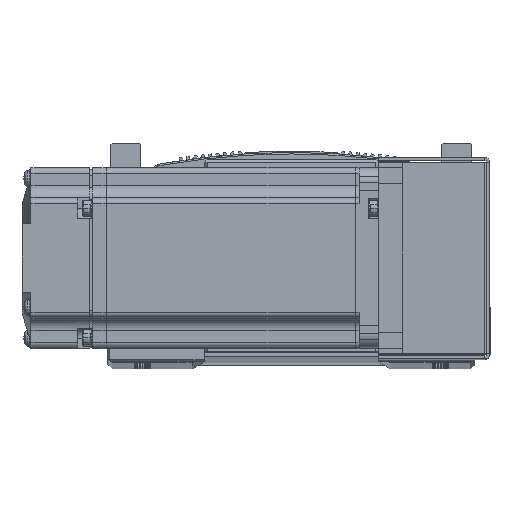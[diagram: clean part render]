
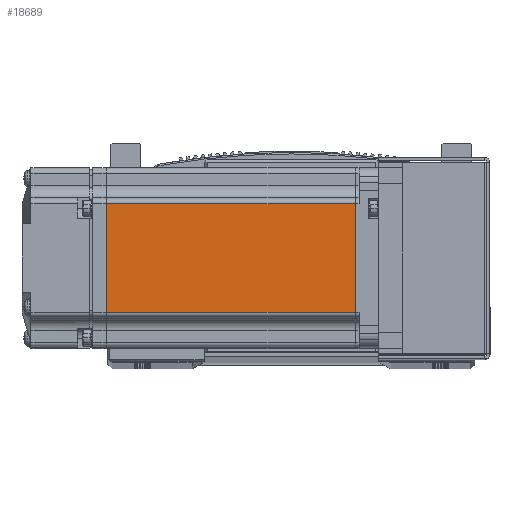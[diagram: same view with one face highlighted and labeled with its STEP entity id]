
A CAD part, top view. The second image highlights one B-rep face of the part: STEP entity #18689.
In plain terms, the highlighted planar face has unit normal (0, 0, 1) as drawn and (0, 1, 0) by its records, which use the part's own axes.
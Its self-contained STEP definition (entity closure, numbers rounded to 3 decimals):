
#3434 = VERTEX_POINT ( 'NONE', #96919 ) ;
#3459 = VERTEX_POINT ( 'NONE', #96931 ) ;
#3478 = VERTEX_POINT ( 'NONE', #96950 ) ;
#5338 = AXIS2_PLACEMENT_3D ( 'NONE', #7782, #7990, #8073 ) ;
#7782 = CARTESIAN_POINT ( 'NONE',  ( -6.5, 30., 25. ) ) ;
#7938 = PLANE ( 'NONE',  #5338 ) ;
#7990 = DIRECTION ( 'NONE',  ( 0., 1., 0. ) ) ;
#8073 = DIRECTION ( 'NONE',  ( 0., 0., 1. ) ) ;
#17486 = FACE_OUTER_BOUND ( 'NONE', #50360, .T. ) ;
#18689 = ADVANCED_FACE ( 'NONE', ( #17486 ), #7938, .T. ) ;
#23706 = CARTESIAN_POINT ( 'NONE',  ( -90.45, 30., -18. ) ) ;
#38589 = VECTOR ( 'NONE', #49579, 1000. ) ;
#38627 = LINE ( 'NONE', #49638, #38639 ) ;
#38639 = VECTOR ( 'NONE', #49651, 1000. ) ;
#38670 = LINE ( 'NONE', #49595, #38589 ) ;
#38761 = VECTOR ( 'NONE', #50952, 1000. ) ;
#38764 = LINE ( 'NONE', #50957, #38761 ) ;
#39682 = LINE ( 'NONE', #50687, #39684 ) ;
#39684 = VECTOR ( 'NONE', #50703, 1000. ) ;
#49579 = DIRECTION ( 'NONE',  ( -1., 0., 0. ) ) ;
#49595 = CARTESIAN_POINT ( 'NONE',  ( -6.5, 30., -18. ) ) ;
#49638 = CARTESIAN_POINT ( 'NONE',  ( -7.75, 30., 0. ) ) ;
#49651 = DIRECTION ( 'NONE',  ( 0., 0., 1. ) ) ;
#50360 = EDGE_LOOP ( 'NONE', ( #62059, #62048, #62042, #62128 ) ) ;
#50687 = CARTESIAN_POINT ( 'NONE',  ( -6.5, 30., 18. ) ) ;
#50703 = DIRECTION ( 'NONE',  ( 1., 0., 0. ) ) ;
#50952 = DIRECTION ( 'NONE',  ( 0., 0., 1. ) ) ;
#50957 = CARTESIAN_POINT ( 'NONE',  ( -90.45, 30., 0. ) ) ;
#55752 = EDGE_CURVE ( 'NONE', #3434, #3459, #39682, .T. ) ;
#55823 = EDGE_CURVE ( 'NONE', #83006, #3434, #38764, .T. ) ;
#55871 = EDGE_CURVE ( 'NONE', #3478, #83006, #38670, .T. ) ;
#55891 = EDGE_CURVE ( 'NONE', #3478, #3459, #38627, .T. ) ;
#62042 = ORIENTED_EDGE ( 'NONE', *, *, #55823, .T. ) ;
#62048 = ORIENTED_EDGE ( 'NONE', *, *, #55871, .T. ) ;
#62059 = ORIENTED_EDGE ( 'NONE', *, *, #55891, .F. ) ;
#62128 = ORIENTED_EDGE ( 'NONE', *, *, #55752, .T. ) ;
#83006 = VERTEX_POINT ( 'NONE', #23706 ) ;
#96919 = CARTESIAN_POINT ( 'NONE',  ( -90.45, 30., 18. ) ) ;
#96931 = CARTESIAN_POINT ( 'NONE',  ( -7.75, 30., 18. ) ) ;
#96950 = CARTESIAN_POINT ( 'NONE',  ( -7.75, 30., -18. ) ) ;
